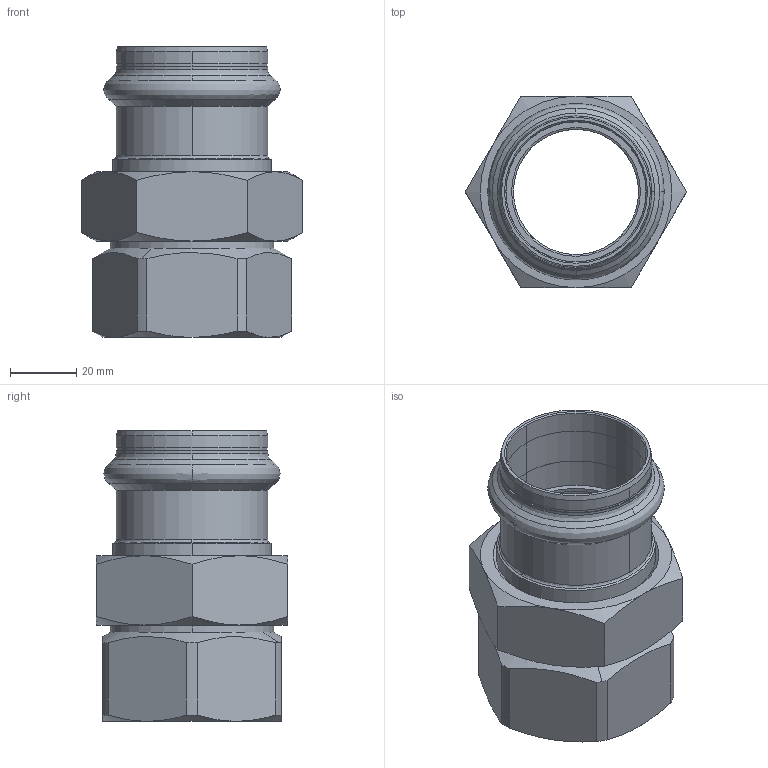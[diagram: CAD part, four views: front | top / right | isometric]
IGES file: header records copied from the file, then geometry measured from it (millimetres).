
Start section: Elysium IGES Interface
Global section: file name: F:\3d modellen sudo\S-Pr VP\SP6330GV\6330GVW42112.igs; native system: CoCreate Modeling 17.00A  17-Jun-2010; preprocessor: CoCreate IGES_3D V2.2; author: Unknown; organization: Unknown; date: 20130129.094735; units: millimetre
Bounding box: 66.97 x 58 x 88 mm (x, y, z)
Volume: 73773.2 mm3; surface area: 39247.6 mm2
Topology: 3 solids, 3 shells, 132 faces, 322 edges, 200 vertices
Faces by surface type: bspline 132
